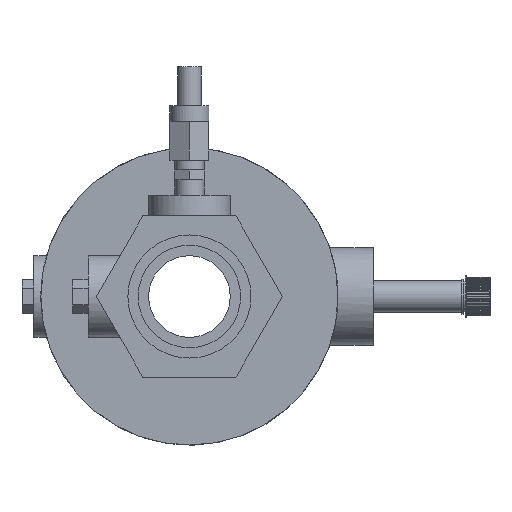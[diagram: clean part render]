
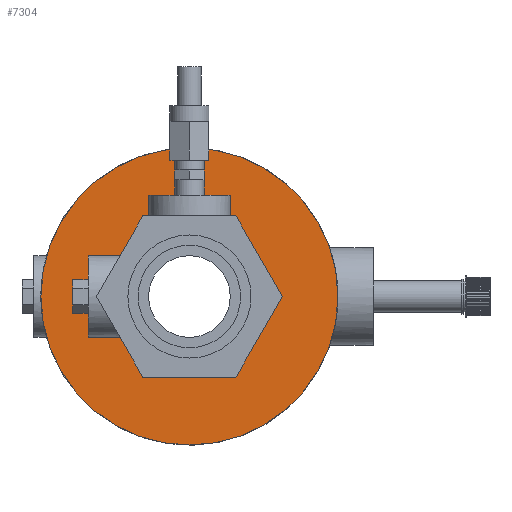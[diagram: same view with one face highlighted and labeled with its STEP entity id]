
A CAD part, left-side view. The second image highlights one B-rep face of the part: STEP entity #7304.
In plain terms, the highlighted planar face has unit normal (-1, 0, 0).
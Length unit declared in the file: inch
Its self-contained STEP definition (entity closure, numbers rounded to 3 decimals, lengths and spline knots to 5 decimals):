
#205=FACE_BOUND('',#1325,.T.);
#250=CIRCLE('',#7523,1.90738);
#251=CIRCLE('',#7524,1.90738);
#258=CIRCLE('',#7537,0.9849);
#260=CIRCLE('',#7539,0.9849);
#261=CIRCLE('',#7540,0.9849);
#941=FACE_OUTER_BOUND('',#1324,.T.);
#1324=EDGE_LOOP('',(#5881,#5882));
#1325=EDGE_LOOP('',(#5883,#5884,#5885,#5886,#5887,#5888,#5889,#5890,#5891));
#1568=LINE('',#10584,#2174);
#1574=LINE('',#10624,#2180);
#1575=LINE('',#10626,#2181);
#1581=LINE('',#10675,#2187);
#1584=LINE('',#10680,#2190);
#1585=LINE('',#10682,#2191);
#2174=VECTOR('',#8481,0.3937);
#2180=VECTOR('',#8493,0.3937);
#2181=VECTOR('',#8496,0.3937);
#2187=VECTOR('',#8518,0.3937);
#2190=VECTOR('',#8523,0.3937);
#2191=VECTOR('',#8526,0.3937);
#2746=VERTEX_POINT('',#10486);
#2754=VERTEX_POINT('',#10526);
#2761=VERTEX_POINT('',#10580);
#2763=VERTEX_POINT('',#10583);
#2767=VERTEX_POINT('',#10620);
#2768=VERTEX_POINT('',#10622);
#2769=VERTEX_POINT('',#10628);
#2771=VERTEX_POINT('',#10633);
#2774=VERTEX_POINT('',#10664);
#2777=VERTEX_POINT('',#10674);
#2778=VERTEX_POINT('',#10678);
#3503=EDGE_CURVE('',#2754,#2746,#250,.T.);
#3504=EDGE_CURVE('',#2746,#2754,#251,.T.);
#3514=EDGE_CURVE('',#2763,#2761,#1568,.T.);
#3522=EDGE_CURVE('',#2767,#2768,#1574,.T.);
#3523=EDGE_CURVE('',#2768,#2763,#1575,.T.);
#3524=EDGE_CURVE('',#2767,#2769,#258,.T.);
#3527=EDGE_CURVE('',#2769,#2771,#260,.T.);
#3531=EDGE_CURVE('',#2774,#2761,#261,.T.);
#3535=EDGE_CURVE('',#2777,#2771,#1581,.T.);
#3538=EDGE_CURVE('',#2774,#2778,#1584,.T.);
#3539=EDGE_CURVE('',#2778,#2777,#1585,.T.);
#5881=ORIENTED_EDGE('',*,*,#3503,.F.);
#5882=ORIENTED_EDGE('',*,*,#3504,.F.);
#5883=ORIENTED_EDGE('',*,*,#3523,.T.);
#5884=ORIENTED_EDGE('',*,*,#3514,.T.);
#5885=ORIENTED_EDGE('',*,*,#3531,.F.);
#5886=ORIENTED_EDGE('',*,*,#3538,.T.);
#5887=ORIENTED_EDGE('',*,*,#3539,.T.);
#5888=ORIENTED_EDGE('',*,*,#3535,.T.);
#5889=ORIENTED_EDGE('',*,*,#3527,.F.);
#5890=ORIENTED_EDGE('',*,*,#3524,.F.);
#5891=ORIENTED_EDGE('',*,*,#3522,.T.);
#6609=PLANE('',#7931);
#7304=ADVANCED_FACE('',(#941,#205),#6609,.T.);
#7523=AXIS2_PLACEMENT_3D('',#10545,#8460,#8461);
#7524=AXIS2_PLACEMENT_3D('',#10546,#8462,#8463);
#7537=AXIS2_PLACEMENT_3D('',#10629,#8499,#8500);
#7539=AXIS2_PLACEMENT_3D('',#10634,#8504,#8505);
#7540=AXIS2_PLACEMENT_3D('',#10666,#8508,#8509);
#7931=AXIS2_PLACEMENT_3D('',#12450,#9601,#9602);
#8460=DIRECTION('center_axis',(1.,0.,0.));
#8461=DIRECTION('ref_axis',(0.,0.,-1.));
#8462=DIRECTION('center_axis',(1.,0.,0.));
#8463=DIRECTION('ref_axis',(0.,0.,-1.));
#8481=DIRECTION('',(0.,-1.,0.));
#8493=DIRECTION('',(0.,1.,0.));
#8496=DIRECTION('',(0.,0.,1.));
#8499=DIRECTION('center_axis',(-1.,0.,0.));
#8500=DIRECTION('ref_axis',(0.,0.,1.));
#8504=DIRECTION('center_axis',(-1.,0.,0.));
#8505=DIRECTION('ref_axis',(0.,0.,1.));
#8508=DIRECTION('center_axis',(-1.,0.,0.));
#8509=DIRECTION('ref_axis',(0.,0.,1.));
#8518=DIRECTION('',(0.,0.,-1.));
#8523=DIRECTION('',(0.,0.,1.));
#8526=DIRECTION('',(0.,-1.,0.));
#9601=DIRECTION('center_axis',(-1.,0.,0.));
#9602=DIRECTION('ref_axis',(0.,0.,1.));
#10486=CARTESIAN_POINT('',(-1.165,1.90738,0.));
#10526=CARTESIAN_POINT('',(-1.165,-1.90738,0.));
#10545=CARTESIAN_POINT('Origin',(-1.165,0.,0.));
#10546=CARTESIAN_POINT('Origin',(-1.165,0.,0.));
#10580=CARTESIAN_POINT('',(-1.165,0.83362,0.5245));
#10583=CARTESIAN_POINT('',(-1.165,1.3,0.5245));
#10584=CARTESIAN_POINT('',(-1.165,0.95369,0.5245));
#10620=CARTESIAN_POINT('',(-1.165,0.83362,-0.5245));
#10622=CARTESIAN_POINT('',(-1.165,1.3,-0.5245));
#10624=CARTESIAN_POINT('',(-1.165,0.95369,-0.5245));
#10626=CARTESIAN_POINT('',(-1.165,1.3,0.));
#10628=CARTESIAN_POINT('',(-1.165,0.,-0.9849));
#10629=CARTESIAN_POINT('Origin',(-1.165,0.,0.));
#10633=CARTESIAN_POINT('',(-1.165,-0.5245,0.83362));
#10634=CARTESIAN_POINT('Origin',(-1.165,0.,0.));
#10664=CARTESIAN_POINT('',(-1.165,0.5245,0.83362));
#10666=CARTESIAN_POINT('Origin',(-1.165,0.,0.));
#10674=CARTESIAN_POINT('',(-1.165,-0.5245,1.3));
#10675=CARTESIAN_POINT('',(-1.165,-0.5245,0.));
#10678=CARTESIAN_POINT('',(-1.165,0.5245,1.3));
#10680=CARTESIAN_POINT('',(-1.165,0.5245,0.));
#10682=CARTESIAN_POINT('',(-1.165,0.95369,1.3));
#12450=CARTESIAN_POINT('Origin',(-1.165,1.90738,0.));
